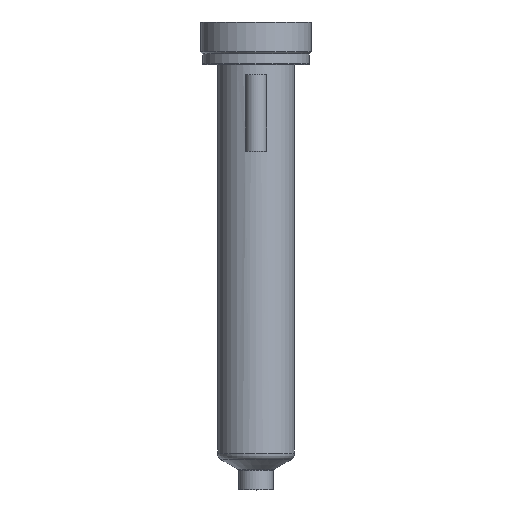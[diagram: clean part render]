
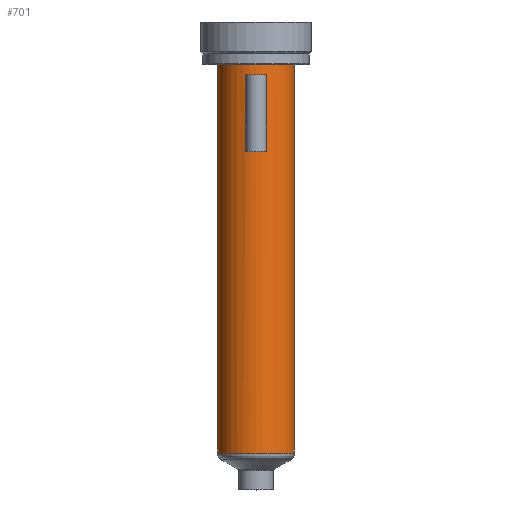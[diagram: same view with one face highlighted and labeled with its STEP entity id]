
A CAD part, top view. The second image highlights one B-rep face of the part: STEP entity #701.
In plain terms, the highlighted cylindrical face has radius 9 mm (diameter 18 mm), a partial arc.
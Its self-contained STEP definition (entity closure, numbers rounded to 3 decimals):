
#193=DIRECTION('',(0.,-1.,0.));
#194=VECTOR('',#193,91.544);
#195=CARTESIAN_POINT('',(9.,0.,0.));
#196=LINE('',#195,#194);
#197=CARTESIAN_POINT('',(0.,-91.544,0.));
#198=DIRECTION('',(0.,1.,0.));
#199=DIRECTION('',(-1.,0.,0.));
#200=AXIS2_PLACEMENT_3D('',#197,#198,#199);
#202=DIRECTION('',(0.,1.,0.));
#203=VECTOR('',#202,91.544);
#204=CARTESIAN_POINT('',(-9.,-91.544,0.));
#205=LINE('',#204,#203);
#206=CARTESIAN_POINT('',(0.,0.,0.));
#207=DIRECTION('',(0.,1.,0.));
#208=DIRECTION('',(-1.,0.,0.));
#209=AXIS2_PLACEMENT_3D('',#206,#207,#208);
#211=DIRECTION('',(0.,-1.,0.));
#212=VECTOR('',#211,18.);
#213=CARTESIAN_POINT('',(-2.5,-2.5,8.646));
#214=LINE('',#213,#212);
#215=DIRECTION('',(0.,1.,0.));
#216=VECTOR('',#215,18.);
#217=CARTESIAN_POINT('',(2.5,-20.5,8.646));
#218=LINE('',#217,#216);
#299=CARTESIAN_POINT('',(0.,-2.5,0.));
#300=DIRECTION('',(0.,-1.,0.));
#301=DIRECTION('',(0.278,0.,0.961));
#302=AXIS2_PLACEMENT_3D('',#299,#300,#301);
#317=CARTESIAN_POINT('',(0.,-20.5,0.));
#318=DIRECTION('',(0.,1.,0.));
#319=DIRECTION('',(-0.278,0.,0.961));
#320=AXIS2_PLACEMENT_3D('',#317,#318,#319);
#396=CARTESIAN_POINT('',(-9.,0.,0.));
#397=CARTESIAN_POINT('',(9.,0.,0.));
#398=VERTEX_POINT('',#396);
#399=VERTEX_POINT('',#397);
#408=CARTESIAN_POINT('',(-2.5,-2.5,8.646));
#409=VERTEX_POINT('',#408);
#410=CARTESIAN_POINT('',(2.5,-2.5,8.646));
#411=VERTEX_POINT('',#410);
#448=CARTESIAN_POINT('',(9.,-91.544,0.));
#449=VERTEX_POINT('',#448);
#458=CARTESIAN_POINT('',(-9.,-91.544,0.));
#459=VERTEX_POINT('',#458);
#460=CARTESIAN_POINT('',(-2.5,-20.5,8.646));
#461=CARTESIAN_POINT('',(2.5,-20.5,8.646));
#462=VERTEX_POINT('',#460);
#463=VERTEX_POINT('',#461);
#679=CARTESIAN_POINT('',(0.,11.15,0.));
#680=DIRECTION('',(0.,-1.,0.));
#681=DIRECTION('',(-1.,0.,0.));
#682=AXIS2_PLACEMENT_3D('',#679,#680,#681);
#683=CYLINDRICAL_SURFACE('',#682,9.);
#684=ORIENTED_EDGE('',*,*,#673,.T.);
#686=ORIENTED_EDGE('',*,*,#685,.F.);
#687=ORIENTED_EDGE('',*,*,#669,.T.);
#688=ORIENTED_EDGE('',*,*,#659,.T.);
#689=EDGE_LOOP('',(#684,#686,#687,#688));
#690=FACE_OUTER_BOUND('',#689,.F.);
#692=ORIENTED_EDGE('',*,*,#691,.T.);
#694=ORIENTED_EDGE('',*,*,#693,.T.);
#696=ORIENTED_EDGE('',*,*,#695,.T.);
#698=ORIENTED_EDGE('',*,*,#697,.T.);
#699=EDGE_LOOP('',(#692,#694,#696,#698));
#700=FACE_BOUND('',#699,.F.);
#701=ADVANCED_FACE('',(#690,#700),#683,.T.);
#201=CIRCLE('',#200,9.);
#210=CIRCLE('',#209,9.);
#303=CIRCLE('',#302,9.);
#321=CIRCLE('',#320,9.);
#659=EDGE_CURVE('',#398,#399,#210,.T.);
#669=EDGE_CURVE('',#459,#398,#205,.T.);
#673=EDGE_CURVE('',#399,#449,#196,.T.);
#685=EDGE_CURVE('',#459,#449,#201,.T.);
#691=EDGE_CURVE('',#409,#462,#214,.T.);
#693=EDGE_CURVE('',#462,#463,#321,.T.);
#695=EDGE_CURVE('',#463,#411,#218,.T.);
#697=EDGE_CURVE('',#411,#409,#303,.T.);
